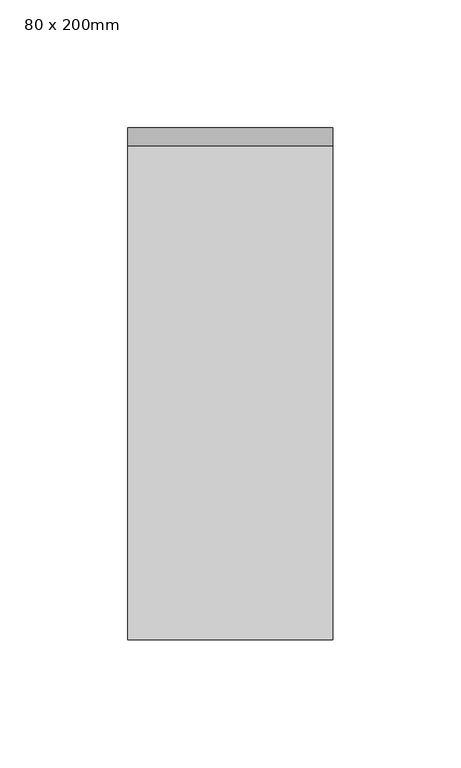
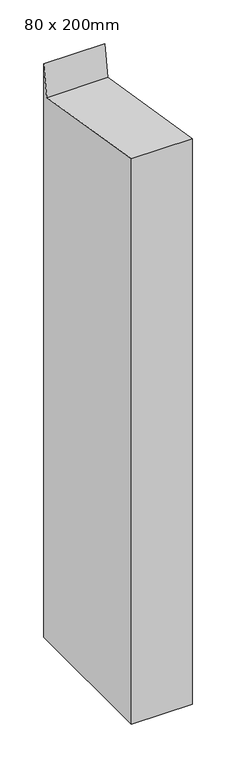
"""IFC4 building model written with IfcOpenShell, lengths in millimetres: member geometry, 矩形竖梃 : 80 x 200mm."""

import ifcopenshell
import ifcopenshell.guid

model = None  # the IFC model being written
_history = None  # IfcOwnerHistory: only IFC2X3 demands one
_inside = {}  # id of a spatial element -> (the spatial element, [elements in it])
_under = {}  # id of a project, library or spatial element -> (it, [spatial elements below it])
_declared = {}  # id of a project -> (the project, [libraries it declares])
_typed = {}  # id of a type object -> (the type object, [elements of that type])
_made_of = {}  # id of a material, layer set ... -> (it, [elements and type objects made of it])


def new_model(schema):
    """Start an empty IFC model of exactly this schema.

    Asked for "IFC4X3", IfcOpenShell would pick the latest addendum, in which some entities
    have other attributes; the version numbers below select the first issue.
    IFC2X3 requires an IfcOwnerHistory on every rooted entity: one is made here for all.
    """
    global model, _history
    if schema == "IFC4X3":
        model = ifcopenshell.file(schema_version=(4, 3, 0, 0))
    else:
        model = ifcopenshell.file(schema=schema)
    _inside.clear()
    _under.clear()
    _declared.clear()
    _typed.clear()
    _made_of.clear()
    _history = None
    if model.schema == "IFC2X3":
        org = make("IfcOrganization", Name="unknown")
        user = make(
            "IfcPersonAndOrganization",
            ThePerson=make("IfcPerson", FamilyName="unknown"),
            TheOrganization=org,
        )
        app = make(
            "IfcApplication",
            ApplicationDeveloper=org,
            Version="unknown",
            ApplicationFullName="unknown",
            ApplicationIdentifier="unknown",
        )
        _history = make(
            "IfcOwnerHistory",
            OwningUser=user,
            OwningApplication=app,
            ChangeAction="ADDED",
            CreationDate=0,
        )
    return model


def make(cls, **values):
    """One entity of the class cls with the attributes given. An attribute that is None is left unset."""
    return model.create_entity(
        cls, **{name: value for name, value in values.items() if value is not None}
    )


def rooted(cls, **values):
    """An entity with a GlobalId (a new one), such as an element, a storey or a relation."""
    return make(cls, GlobalId=ifcopenshell.guid.new(), OwnerHistory=_history, **values)


def si_unit(unit_type, name, prefix=None):
    """IfcSIUnit, for example si_unit("LENGTHUNIT", "METRE", prefix="MILLI")."""
    return make("IfcSIUnit", UnitType=unit_type, Prefix=prefix, Name=name)


def assignment(units):
    """IfcUnitAssignment: the units of a project."""
    return None if units is None else make("IfcUnitAssignment", Units=units)


def point(xyz):
    """IfcCartesianPoint."""
    return None if xyz is None else make("IfcCartesianPoint", Coordinates=xyz)


def direction(xyz):
    """IfcDirection."""
    return None if xyz is None else make("IfcDirection", DirectionRatios=xyz)


def frame(location, z_axis=None, x_axis=None):
    """IfcAxis2Placement3D, a coordinate frame: its origin and axes. An axis left out is left unset."""
    return make(
        "IfcAxis2Placement3D",
        Location=point(location),
        Axis=direction(z_axis),
        RefDirection=direction(x_axis),
    )


def origin():
    """The frame at (0, 0, 0) with its axes left unset."""
    return frame((0.0, 0.0, 0.0))


def place(relative_to, where):
    """IfcLocalPlacement: puts the frame where relative to a parent placement (None: the world)."""
    return make(
        "IfcLocalPlacement", PlacementRelTo=relative_to, RelativePlacement=where
    )


def context(
    kind, dimensions, precision=None, world=None, true_north=None, identifier=None
):
    """IfcGeometricRepresentationContext, for example the 3D "Model" context."""
    return make(
        "IfcGeometricRepresentationContext",
        ContextIdentifier=identifier,
        ContextType=kind,
        CoordinateSpaceDimension=dimensions,
        Precision=precision,
        WorldCoordinateSystem=world,
        TrueNorth=true_north,
    )


def project(units=None, contexts=None):
    """IfcProject with its units and contexts."""
    return rooted(
        "IfcProject",
        Name="project",
        RepresentationContexts=contexts,
        UnitsInContext=assignment(units),
    )


def spatial(cls, under=None, at=None, **own):
    """A site, building, storey or space (cls), placed at a placement, below another one or the project."""
    s = rooted(cls, ObjectPlacement=at, **own)
    if under is not None:
        _under.setdefault(under.id(), (under, []))[1].append(s)
    return s


def polyline(points):
    """IfcPolyline through the points."""
    return make("IfcPolyline", Points=[point(p) for p in points])


def outline(outer, holes=None, kind="AREA"):
    """IfcArbitraryClosedProfileDef: a profile drawn as a closed curve; with holes, ...WithVoids."""
    if holes is None:
        return make("IfcArbitraryClosedProfileDef", ProfileType=kind, OuterCurve=outer)
    return make(
        "IfcArbitraryProfileDefWithVoids",
        ProfileType=kind,
        OuterCurve=outer,
        InnerCurves=holes,
    )


def extrude(swept, where, along, depth):
    """IfcExtrudedAreaSolid: the profile swept, set in the frame where, extruded along a direction by depth."""
    return make(
        "IfcExtrudedAreaSolid",
        SweptArea=swept,
        Position=where,
        ExtrudedDirection=direction(along),
        Depth=depth,
    )


def shape(context_of_items, identifier, shape_type, items):
    """IfcShapeRepresentation: the items that make up one representation, for example the "Body"."""
    return make(
        "IfcShapeRepresentation",
        ContextOfItems=context_of_items,
        RepresentationIdentifier=identifier,
        RepresentationType=shape_type,
        Items=items,
    )


def source(mapping_origin, context_of_items, identifier, shape_type, items):
    """IfcRepresentationMap: a shape defined once, which mapped items show again and again."""
    return make(
        "IfcRepresentationMap",
        MappingOrigin=mapping_origin,
        MappedRepresentation=shape(context_of_items, identifier, shape_type, items),
    )


def transform(
    local_origin,
    x_axis=None,
    y_axis=None,
    z_axis=None,
    scale=None,
    scale2=None,
    scale3=None,
    uniform=True,
):
    """IfcCartesianTransformationOperator3D, or its non-uniform kind. x_axis, y_axis, z_axis: its Axis1, 2, 3."""
    if uniform:
        return make(
            "IfcCartesianTransformationOperator3D",
            Axis1=direction(x_axis),
            Axis2=direction(y_axis),
            LocalOrigin=point(local_origin),
            Scale=scale,
            Axis3=direction(z_axis),
        )
    return make(
        "IfcCartesianTransformationOperator3DnonUniform",
        Axis1=direction(x_axis),
        Axis2=direction(y_axis),
        LocalOrigin=point(local_origin),
        Scale=scale,
        Axis3=direction(z_axis),
        Scale2=scale2,
        Scale3=scale3,
    )


def mapped(mapping_source, mapping_target):
    """IfcMappedItem: shows the shape of a source again, moved by a transform."""
    return make(
        "IfcMappedItem", MappingSource=mapping_source, MappingTarget=mapping_target
    )


def made_of(thing, what):
    """Note that an element or type object is made of a material, layer set ...; save() writes the relation."""
    if what is not None:
        _made_of.setdefault(what.id(), (what, []))[1].append(thing)
    return thing


def element(
    cls,
    number,
    at=None,
    inside=None,
    cuts=None,
    type_object=None,
    material=None,
    context=None,
    identifier="Body",
    shape_type=None,
    held_by="IfcProductDefinitionShape",
    body=None,
    shapes=None,
    **own,
):
    """One element of the class cls, such as IfcWall. Its Tag is "e" and its number.

    at: its placement. inside: the storey or other place that contains it. cuts: it is an
    opening in that element (IfcRelVoidsElement). A single representation is given by context,
    identifier, shape_type and body (its items); several are given by shapes. held_by: the class
    of the entity that holds the representations. save() writes the other relations.
    """
    e = rooted(cls, Tag="e%d" % number, ObjectPlacement=at, **own)
    if body is not None:
        shapes = [shape(context, identifier, shape_type, body)]
    if shapes is not None:
        e.Representation = make(held_by, Representations=shapes)
    if inside is not None:
        _inside.setdefault(inside.id(), (inside, []))[1].append(e)
    if cuts is not None:
        rooted(
            "IfcRelVoidsElement", RelatingBuildingElement=cuts, RelatedOpeningElement=e
        )
    if type_object is not None:
        _typed.setdefault(type_object.id(), (type_object, []))[1].append(e)
    return made_of(e, material)


def aggregate(whole, parts):
    """IfcRelAggregates: a whole, such as a stair, and the parts it consists of."""
    return rooted("IfcRelAggregates", RelatingObject=whole, RelatedObjects=parts)


def save(model, path):
    """Write the relations noted so far, then the file.

    IfcRelAggregates (storeys below a building ...), IfcRelContainedInSpatialStructure (elements
    in a storey), IfcRelDefinesByType, IfcRelAssociatesMaterial and IfcRelDeclares: one each for
    every whole, place, type object, material and project.
    """
    for whole, parts in _under.values():
        aggregate(whole, parts)
    for where, things in _inside.values():
        rooted(
            "IfcRelContainedInSpatialStructure",
            RelatedElements=things,
            RelatingStructure=where,
        )
    for kind, things in _typed.values():
        rooted("IfcRelDefinesByType", RelatedObjects=things, RelatingType=kind)
    for what, things in _made_of.values():
        rooted("IfcRelAssociatesMaterial", RelatedObjects=things, RelatingMaterial=what)
    for by, libraries in _declared.values():
        rooted("IfcRelDeclares", RelatingContext=by, RelatedDefinitions=libraries)
    model.write(path)


def member_80_x_200mm_c7575e74(model_context):
    return source(origin(), model_context, "Body", "SweptSolid", [
        extrude(outline(polyline([(-100.0, 16.0168184), (92.973187, -15.8034103), (100.0, 26.8105668), (100.0, -771.8964251), (-100.0, -771.8964251), (-100.0, 16.0168184)])), frame((-80.0, 0.0, 0.0), z_axis=(1.0, 0.0, 0.0), x_axis=(0.0, 1.0, 0.0)), (0.0, 0.0, 1.0), 80.0),
    ])


if __name__ == "__main__":
    model = new_model("IFC4")
    model_context = context("Model", 3, world=origin())
    ifc_project = project(units=[si_unit("LENGTHUNIT", "METRE", prefix="MILLI")], contexts=[model_context])
    site = spatial("IfcSite", under=ifc_project)
    building = spatial("IfcBuilding", under=site)
    placement = place(None, origin())
    member_80_x_200mm_shape = member_80_x_200mm_c7575e74(model_context)
    element("IfcMember", 1, ObjectType="矩形竖梃 : 80 x 200mm", at=placement, inside=building, context=model_context, shape_type="MappedRepresentation", body=[
        mapped(member_80_x_200mm_shape, transform((0.0, 0.0, 0.0), x_axis=(1.0, 0.0, 0.0), y_axis=(0.0, 1.0, 0.0), z_axis=(0.0, 0.0, 1.0))),
    ])
    save(model, "model.ifc")
